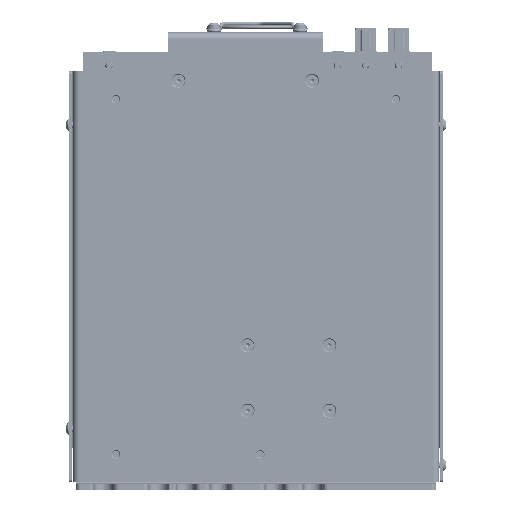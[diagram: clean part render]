
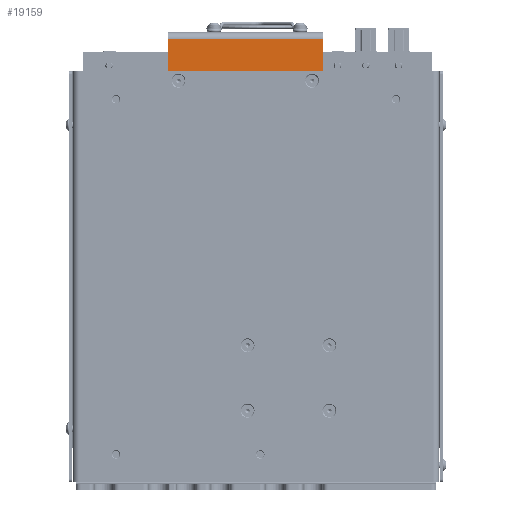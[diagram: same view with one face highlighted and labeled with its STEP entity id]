
A CAD part, front view. The second image highlights one B-rep face of the part: STEP entity #19159.
In plain terms, the highlighted planar face has unit normal (0, -1, 0).
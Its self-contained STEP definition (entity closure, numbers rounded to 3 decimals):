
#870 = EDGE_CURVE ( 'NONE', #43617, #25563, #156520, .T. ) ;
#1049 = LINE ( 'NONE', #126700, #100020 ) ;
#4869 = DIRECTION ( 'NONE',  ( 0., 1., 0. ) ) ;
#5374 = EDGE_CURVE ( 'NONE', #95947, #54441, #133339, .T. ) ;
#6548 = EDGE_CURVE ( 'NONE', #52968, #25563, #124992, .T. ) ;
#8966 = FACE_BOUND ( 'NONE', #116071, .T. ) ;
#9100 = AXIS2_PLACEMENT_3D ( 'NONE', #26330, #129172, #167692 ) ;
#9987 = CARTESIAN_POINT ( 'NONE',  ( -36.5, -28., -20.375 ) ) ;
#11305 = DIRECTION ( 'NONE',  ( 0., 1., 0. ) ) ;
#19159 = ADVANCED_FACE ( 'NONE', ( #49499, #8966, #33178 ), #115882, .F. ) ;
#19786 = CARTESIAN_POINT ( 'NONE',  ( -36.5, -28., -22.5 ) ) ;
#25425 = DIRECTION ( 'NONE',  ( 0., -1., 0. ) ) ;
#25563 = VERTEX_POINT ( 'NONE', #164996 ) ;
#26330 = CARTESIAN_POINT ( 'NONE',  ( 27.5, -28., -24. ) ) ;
#26735 = CIRCLE ( 'NONE', #72303, 2.125 ) ;
#28694 = CARTESIAN_POINT ( 'NONE',  ( -41.5, -28., -3. ) ) ;
#29296 = DIRECTION ( 'NONE',  ( 0., 0., 1. ) ) ;
#32090 = AXIS2_PLACEMENT_3D ( 'NONE', #119193, #41772, #29296 ) ;
#33178 = FACE_OUTER_BOUND ( 'NONE', #56836, .T. ) ;
#38408 = CARTESIAN_POINT ( 'NONE',  ( 41.5, -28., 0. ) ) ;
#38651 = CIRCLE ( 'NONE', #103800, 2.125 ) ;
#41201 = VECTOR ( 'NONE', #47288, 1000. ) ;
#41631 = DIRECTION ( 'NONE',  ( 0., 0., 1. ) ) ;
#41772 = DIRECTION ( 'NONE',  ( 0., 1., 0. ) ) ;
#43617 = VERTEX_POINT ( 'NONE', #160369 ) ;
#44848 = ORIENTED_EDGE ( 'NONE', *, *, #6548, .T. ) ;
#47288 = DIRECTION ( 'NONE',  ( -1., 0., 0. ) ) ;
#47478 = CARTESIAN_POINT ( 'NONE',  ( 30.5, -28., -3. ) ) ;
#48746 = CARTESIAN_POINT ( 'NONE',  ( 30.5, -28., -27. ) ) ;
#49499 = FACE_BOUND ( 'NONE', #110056, .T. ) ;
#50957 = EDGE_CURVE ( 'NONE', #63975, #52968, #1049, .T. ) ;
#52862 = ORIENTED_EDGE ( 'NONE', *, *, #113760, .T. ) ;
#52968 = VERTEX_POINT ( 'NONE', #156606 ) ;
#54441 = VERTEX_POINT ( 'NONE', #47478 ) ;
#56836 = EDGE_LOOP ( 'NONE', ( #161578, #52862, #128893, #103386, #80658, #44848 ) ) ;
#58860 = CIRCLE ( 'NONE', #32090, 2.125 ) ;
#59100 = ORIENTED_EDGE ( 'NONE', *, *, #160771, .T. ) ;
#62517 = VECTOR ( 'NONE', #101255, 1000. ) ;
#63601 = VERTEX_POINT ( 'NONE', #137333 ) ;
#63764 = DIRECTION ( 'NONE',  ( 0., 0., 1. ) ) ;
#63975 = VERTEX_POINT ( 'NONE', #28694 ) ;
#70944 = CARTESIAN_POINT ( 'NONE',  ( 41.5, -28., -27. ) ) ;
#71108 = DIRECTION ( 'NONE',  ( 0., 1., 0. ) ) ;
#72303 = AXIS2_PLACEMENT_3D ( 'NONE', #19786, #71108, #84129 ) ;
#73365 = VERTEX_POINT ( 'NONE', #113274 ) ;
#75591 = VECTOR ( 'NONE', #94395, 1000. ) ;
#78330 = DIRECTION ( 'NONE',  ( 0., 1., 0. ) ) ;
#79191 = CARTESIAN_POINT ( 'NONE',  ( 41.5, -28., -3. ) ) ;
#80658 = ORIENTED_EDGE ( 'NONE', *, *, #50957, .T. ) ;
#81570 = ORIENTED_EDGE ( 'NONE', *, *, #92734, .T. ) ;
#84129 = DIRECTION ( 'NONE',  ( 0., 0., 1. ) ) ;
#85630 = VERTEX_POINT ( 'NONE', #86696 ) ;
#86668 = AXIS2_PLACEMENT_3D ( 'NONE', #38408, #11305, #102227 ) ;
#86696 = CARTESIAN_POINT ( 'NONE',  ( 25.5, -28., -24.625 ) ) ;
#90413 = CIRCLE ( 'NONE', #9100, 3. ) ;
#92734 = EDGE_CURVE ( 'NONE', #63601, #95175, #114584, .T. ) ;
#94291 = ORIENTED_EDGE ( 'NONE', *, *, #101456, .T. ) ;
#94395 = DIRECTION ( 'NONE',  ( -1., 0., 0. ) ) ;
#95175 = VERTEX_POINT ( 'NONE', #9987 ) ;
#95947 = VERTEX_POINT ( 'NONE', #102977 ) ;
#100020 = VECTOR ( 'NONE', #151114, 1000. ) ;
#101255 = DIRECTION ( 'NONE',  ( 0., 0., 1. ) ) ;
#101456 = EDGE_CURVE ( 'NONE', #85630, #73365, #58860, .T. ) ;
#102227 = DIRECTION ( 'NONE',  ( 0., 0., 1. ) ) ;
#102977 = CARTESIAN_POINT ( 'NONE',  ( 30.5, -28., -24. ) ) ;
#103386 = ORIENTED_EDGE ( 'NONE', *, *, #115791, .T. ) ;
#103800 = AXIS2_PLACEMENT_3D ( 'NONE', #111769, #78330, #162000 ) ;
#110056 = EDGE_LOOP ( 'NONE', ( #59100, #81570 ) ) ;
#111769 = CARTESIAN_POINT ( 'NONE',  ( 25.5, -28., -22.5 ) ) ;
#112458 = ORIENTED_EDGE ( 'NONE', *, *, #160353, .T. ) ;
#113274 = CARTESIAN_POINT ( 'NONE',  ( 25.5, -28., -20.375 ) ) ;
#113760 = EDGE_CURVE ( 'NONE', #43617, #95947, #90413, .T. ) ;
#114584 = CIRCLE ( 'NONE', #159587, 2.125 ) ;
#115791 = EDGE_CURVE ( 'NONE', #54441, #63975, #116064, .T. ) ;
#115882 = PLANE ( 'NONE',  #86668 ) ;
#116064 = LINE ( 'NONE', #79191, #75591 ) ;
#116071 = EDGE_LOOP ( 'NONE', ( #112458, #94291 ) ) ;
#119064 = CARTESIAN_POINT ( 'NONE',  ( -36.5, -28., -22.5 ) ) ;
#119193 = CARTESIAN_POINT ( 'NONE',  ( 25.5, -28., -22.5 ) ) ;
#122896 = AXIS2_PLACEMENT_3D ( 'NONE', #152663, #25425, #63764 ) ;
#124992 = CIRCLE ( 'NONE', #122896, 3. ) ;
#126700 = CARTESIAN_POINT ( 'NONE',  ( -41.5, -28., 0. ) ) ;
#128893 = ORIENTED_EDGE ( 'NONE', *, *, #5374, .T. ) ;
#129172 = DIRECTION ( 'NONE',  ( 0., -1., 0. ) ) ;
#133339 = LINE ( 'NONE', #48746, #62517 ) ;
#137333 = CARTESIAN_POINT ( 'NONE',  ( -36.5, -28., -24.625 ) ) ;
#151114 = DIRECTION ( 'NONE',  ( 0., 0., -1. ) ) ;
#152663 = CARTESIAN_POINT ( 'NONE',  ( -38.5, -28., -24. ) ) ;
#156520 = LINE ( 'NONE', #70944, #41201 ) ;
#156606 = CARTESIAN_POINT ( 'NONE',  ( -41.5, -28., -24. ) ) ;
#159587 = AXIS2_PLACEMENT_3D ( 'NONE', #119064, #4869, #41631 ) ;
#160353 = EDGE_CURVE ( 'NONE', #73365, #85630, #38651, .T. ) ;
#160369 = CARTESIAN_POINT ( 'NONE',  ( 27.5, -28., -27. ) ) ;
#160771 = EDGE_CURVE ( 'NONE', #95175, #63601, #26735, .T. ) ;
#161578 = ORIENTED_EDGE ( 'NONE', *, *, #870, .F. ) ;
#162000 = DIRECTION ( 'NONE',  ( 0., 0., 1. ) ) ;
#164996 = CARTESIAN_POINT ( 'NONE',  ( -38.5, -28., -27. ) ) ;
#167692 = DIRECTION ( 'NONE',  ( 0., 0., 1. ) ) ;
